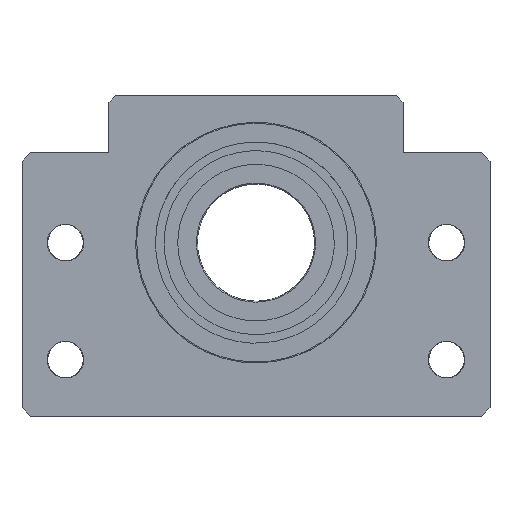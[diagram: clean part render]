
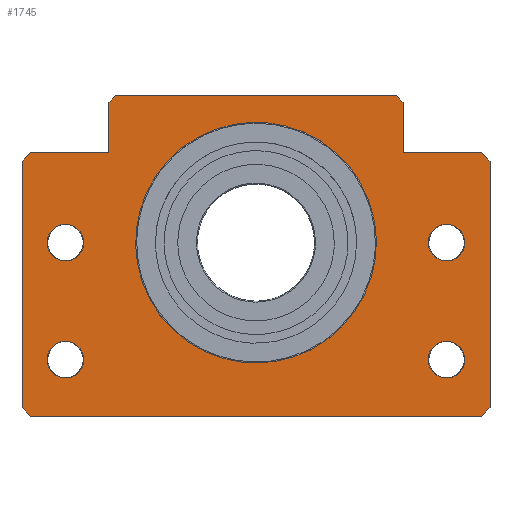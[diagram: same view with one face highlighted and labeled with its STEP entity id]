
A CAD part, front view. The second image highlights one B-rep face of the part: STEP entity #1745.
In plain terms, the highlighted free-form (B-spline) face has degree [1, 1] with [2, 2] control points.
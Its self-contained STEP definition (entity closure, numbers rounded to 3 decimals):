
#1022=CARTESIAN_POINT('',(70.,-49.36,0.));
#1023=VERTEX_POINT('',#1022);
#1024=CARTESIAN_POINT('',(67.36,-52.,0.));
#1025=VERTEX_POINT('',#1024);
#1026=CARTESIAN_POINT('',(70.,-49.36,0.));
#1027=CARTESIAN_POINT('',(67.36,-52.,0.));
#1028=B_SPLINE_CURVE_WITH_KNOTS('',1,(#1026,#1027),.POLYLINE_FORM.,.F.,.U.,(2,2),(0.,1.),.UNSPECIFIED.);
#1029=EDGE_CURVE('',#1023,#1025,#1028,.T.);
#1058=CARTESIAN_POINT('',(70.,24.36,0.));
#1059=VERTEX_POINT('',#1058);
#1060=CARTESIAN_POINT('',(70.,24.36,0.));
#1061=CARTESIAN_POINT('',(70.,-49.36,0.));
#1062=B_SPLINE_CURVE_WITH_KNOTS('',1,(#1060,#1061),.POLYLINE_FORM.,.F.,.U.,(2,2),(0.,1.),.UNSPECIFIED.);
#1063=EDGE_CURVE('',#1059,#1023,#1062,.T.);
#1086=CARTESIAN_POINT('',(-67.36,-52.,0.));
#1087=VERTEX_POINT('',#1086);
#1088=CARTESIAN_POINT('',(67.36,-52.,0.));
#1089=CARTESIAN_POINT('',(-67.36,-52.,0.));
#1090=B_SPLINE_CURVE_WITH_KNOTS('',1,(#1088,#1089),.POLYLINE_FORM.,.F.,.U.,(2,2),(0.,1.),.UNSPECIFIED.);
#1091=EDGE_CURVE('',#1025,#1087,#1090,.T.);
#1146=CARTESIAN_POINT('',(-70.,-49.36,0.));
#1147=VERTEX_POINT('',#1146);
#1148=CARTESIAN_POINT('',(-70.,24.36,0.));
#1149=VERTEX_POINT('',#1148);
#1150=CARTESIAN_POINT('',(-70.,-49.36,0.));
#1151=CARTESIAN_POINT('',(-70.,24.36,0.));
#1152=B_SPLINE_CURVE_WITH_KNOTS('',1,(#1150,#1151),.POLYLINE_FORM.,.F.,.U.,(2,2),(0.,1.),.UNSPECIFIED.);
#1153=EDGE_CURVE('',#1147,#1149,#1152,.T.);
#1182=CARTESIAN_POINT('',(-67.36,-52.,0.));
#1183=CARTESIAN_POINT('',(-70.,-49.36,0.));
#1184=B_SPLINE_CURVE_WITH_KNOTS('',1,(#1182,#1183),.POLYLINE_FORM.,.F.,.U.,(2,2),(0.,1.),.UNSPECIFIED.);
#1185=EDGE_CURVE('',#1087,#1147,#1184,.T.);
#1202=CARTESIAN_POINT('',(67.36,27.,0.));
#1203=VERTEX_POINT('',#1202);
#1204=CARTESIAN_POINT('',(67.36,27.,0.));
#1205=CARTESIAN_POINT('',(70.,24.36,0.));
#1206=B_SPLINE_CURVE_WITH_KNOTS('',1,(#1204,#1205),.POLYLINE_FORM.,.F.,.U.,(2,2),(0.,1.),.UNSPECIFIED.);
#1207=EDGE_CURVE('',#1203,#1059,#1206,.T.);
#1230=CARTESIAN_POINT('',(44.,27.,0.));
#1231=VERTEX_POINT('',#1230);
#1232=CARTESIAN_POINT('',(44.,27.,0.));
#1233=CARTESIAN_POINT('',(67.36,27.,0.));
#1234=B_SPLINE_CURVE_WITH_KNOTS('',1,(#1232,#1233),.POLYLINE_FORM.,.F.,.U.,(2,2),(0.,1.),.UNSPECIFIED.);
#1235=EDGE_CURVE('',#1231,#1203,#1234,.T.);
#1274=CARTESIAN_POINT('',(44.,42.,0.));
#1275=VERTEX_POINT('',#1274);
#1276=CARTESIAN_POINT('',(44.,42.,0.));
#1277=CARTESIAN_POINT('',(44.,27.,0.));
#1278=B_SPLINE_CURVE_WITH_KNOTS('',1,(#1276,#1277),.POLYLINE_FORM.,.F.,.U.,(2,2),(0.,1.),.UNSPECIFIED.);
#1279=EDGE_CURVE('',#1275,#1231,#1278,.T.);
#1302=CARTESIAN_POINT('',(42.,44.,0.));
#1303=VERTEX_POINT('',#1302);
#1304=CARTESIAN_POINT('',(42.,44.,0.));
#1305=CARTESIAN_POINT('',(44.,42.,0.));
#1306=B_SPLINE_CURVE_WITH_KNOTS('',1,(#1304,#1305),.POLYLINE_FORM.,.F.,.U.,(2,2),(0.,1.),.UNSPECIFIED.);
#1307=EDGE_CURVE('',#1303,#1275,#1306,.T.);
#1330=CARTESIAN_POINT('',(-42.,44.,0.));
#1331=VERTEX_POINT('',#1330);
#1332=CARTESIAN_POINT('',(-42.,44.,0.));
#1333=CARTESIAN_POINT('',(42.,44.,0.));
#1334=B_SPLINE_CURVE_WITH_KNOTS('',1,(#1332,#1333),.POLYLINE_FORM.,.F.,.U.,(2,2),(0.,1.),.UNSPECIFIED.);
#1335=EDGE_CURVE('',#1331,#1303,#1334,.T.);
#1358=CARTESIAN_POINT('',(-44.,42.,0.));
#1359=VERTEX_POINT('',#1358);
#1360=CARTESIAN_POINT('',(-44.,42.,0.));
#1361=CARTESIAN_POINT('',(-42.,44.,0.));
#1362=B_SPLINE_CURVE_WITH_KNOTS('',1,(#1360,#1361),.POLYLINE_FORM.,.F.,.U.,(2,2),(0.,1.),.UNSPECIFIED.);
#1363=EDGE_CURVE('',#1359,#1331,#1362,.T.);
#1386=CARTESIAN_POINT('',(-44.,27.,0.));
#1387=VERTEX_POINT('',#1386);
#1388=CARTESIAN_POINT('',(-44.,27.,0.));
#1389=CARTESIAN_POINT('',(-44.,42.,0.));
#1390=B_SPLINE_CURVE_WITH_KNOTS('',1,(#1388,#1389),.POLYLINE_FORM.,.F.,.U.,(2,2),(0.,1.),.UNSPECIFIED.);
#1391=EDGE_CURVE('',#1387,#1359,#1390,.T.);
#1414=CARTESIAN_POINT('',(-67.36,27.,0.));
#1415=VERTEX_POINT('',#1414);
#1416=CARTESIAN_POINT('',(-67.36,27.,0.));
#1417=CARTESIAN_POINT('',(-44.,27.,0.));
#1418=B_SPLINE_CURVE_WITH_KNOTS('',1,(#1416,#1417),.POLYLINE_FORM.,.F.,.U.,(2,2),(0.,1.),.UNSPECIFIED.);
#1419=EDGE_CURVE('',#1415,#1387,#1418,.T.);
#1458=CARTESIAN_POINT('',(-70.,24.36,0.));
#1459=CARTESIAN_POINT('',(-67.36,27.,0.));
#1460=B_SPLINE_CURVE_WITH_KNOTS('',1,(#1458,#1459),.POLYLINE_FORM.,.F.,.U.,(2,2),(0.,1.),.UNSPECIFIED.);
#1461=EDGE_CURVE('',#1149,#1415,#1460,.T.);
#1642=CARTESIAN_POINT('',(36.,0.,0.));
#1643=VERTEX_POINT('',#1642);
#1649=CARTESIAN_POINT('',(36.,0.,0.));
#1650=CARTESIAN_POINT('',(36.,-36.,0.));
#1651=CARTESIAN_POINT('',(0.,-36.,0.));
#1652=CARTESIAN_POINT('',(-36.,-36.,0.));
#1653=CARTESIAN_POINT('',(-36.,0.,0.));
#1654=CARTESIAN_POINT('',(-36.,36.,0.));
#1655=CARTESIAN_POINT('',(0.,36.,0.));
#1656=CARTESIAN_POINT('',(36.,36.,0.));
#1657=CARTESIAN_POINT('',(36.,0.,0.));
#1658=(BOUNDED_CURVE()B_SPLINE_CURVE(2,(#1649,#1650,#1651,#1652,#1653,#1654,#1655,#1656,#1657),.UNSPECIFIED.,.T.,.U.)B_SPLINE_CURVE_WITH_KNOTS((3,2,2,2,3),(0.,0.25,0.5,0.75,1.),.UNSPECIFIED.)CURVE()GEOMETRIC_REPRESENTATION_ITEM()RATIONAL_B_SPLINE_CURVE((1.,0.707,1.,0.707,1.,0.707,1.,0.707,1.))REPRESENTATION_ITEM(''));
#1659=EDGE_CURVE('',#1643,#1643,#1658,.T.);
#1665=CARTESIAN_POINT('',(-173.753,-173.753,0.));
#1666=CARTESIAN_POINT('',(-173.753,173.753,0.));
#1667=CARTESIAN_POINT('',(173.753,-173.753,0.));
#1668=CARTESIAN_POINT('',(173.753,173.753,0.));
#1669=B_SPLINE_SURFACE_WITH_KNOTS('',1,1,((#1665,#1666),(#1667,#1668)),.PLANE_SURF.,.F.,.F.,.U.,(2,2),(2,2),(0.,1.),(0.,1.),.UNSPECIFIED.);
#1670=ORIENTED_EDGE('',*,*,#1153,.F.);
#1671=ORIENTED_EDGE('',*,*,#1185,.F.);
#1672=ORIENTED_EDGE('',*,*,#1091,.F.);
#1673=ORIENTED_EDGE('',*,*,#1029,.F.);
#1674=ORIENTED_EDGE('',*,*,#1063,.F.);
#1675=ORIENTED_EDGE('',*,*,#1207,.F.);
#1676=ORIENTED_EDGE('',*,*,#1235,.F.);
#1677=ORIENTED_EDGE('',*,*,#1279,.F.);
#1678=ORIENTED_EDGE('',*,*,#1307,.F.);
#1679=ORIENTED_EDGE('',*,*,#1335,.F.);
#1680=ORIENTED_EDGE('',*,*,#1363,.F.);
#1681=ORIENTED_EDGE('',*,*,#1391,.F.);
#1682=ORIENTED_EDGE('',*,*,#1419,.F.);
#1683=ORIENTED_EDGE('',*,*,#1461,.F.);
#1684=EDGE_LOOP('',(#1670,#1671,#1672,#1673,#1674,#1675,#1676,#1677,#1678,#1679,#1680,#1681,#1682,#1683));
#1685=FACE_OUTER_BOUND('',#1684,.T.);
#1686=ORIENTED_EDGE('',*,*,#1659,.T.);
#1687=EDGE_LOOP('',(#1686));
#1688=FACE_BOUND('',#1687,.T.);
#1689=CARTESIAN_POINT('',(62.5,0.,0.));
#1690=VERTEX_POINT('',#1689);
#1691=CARTESIAN_POINT('',(62.5,0.,0.));
#1692=CARTESIAN_POINT('',(62.5,9.526,0.));
#1693=CARTESIAN_POINT('',(54.25,4.763,0.));
#1694=CARTESIAN_POINT('',(46.,0.,0.));
#1695=CARTESIAN_POINT('',(54.25,-4.763,0.));
#1696=CARTESIAN_POINT('',(62.5,-9.526,0.));
#1697=CARTESIAN_POINT('',(62.5,0.,0.));
#1698=(BOUNDED_CURVE()B_SPLINE_CURVE(2,(#1691,#1692,#1693,#1694,#1695,#1696,#1697),.CIRCULAR_ARC.,.T.,.U.)B_SPLINE_CURVE_WITH_KNOTS((3,2,2,3),(0.,0.333,0.667,1.),.UNSPECIFIED.)CURVE()GEOMETRIC_REPRESENTATION_ITEM()RATIONAL_B_SPLINE_CURVE((1.,0.5,1.,0.5,1.,0.5,1.))REPRESENTATION_ITEM(''));
#1699=EDGE_CURVE('',#1690,#1690,#1698,.T.);
#1700=ORIENTED_EDGE('',*,*,#1699,.F.);
#1701=EDGE_LOOP('',(#1700));
#1702=FACE_BOUND('',#1701,.T.);
#1703=CARTESIAN_POINT('',(62.5,-35.,0.));
#1704=VERTEX_POINT('',#1703);
#1705=CARTESIAN_POINT('',(62.5,-35.,0.));
#1706=CARTESIAN_POINT('',(62.5,-25.474,0.));
#1707=CARTESIAN_POINT('',(54.25,-30.237,0.));
#1708=CARTESIAN_POINT('',(46.,-35.,0.));
#1709=CARTESIAN_POINT('',(54.25,-39.763,0.));
#1710=CARTESIAN_POINT('',(62.5,-44.526,0.));
#1711=CARTESIAN_POINT('',(62.5,-35.,0.));
#1712=(BOUNDED_CURVE()B_SPLINE_CURVE(2,(#1705,#1706,#1707,#1708,#1709,#1710,#1711),.CIRCULAR_ARC.,.T.,.U.)B_SPLINE_CURVE_WITH_KNOTS((3,2,2,3),(0.,0.333,0.667,1.),.UNSPECIFIED.)CURVE()GEOMETRIC_REPRESENTATION_ITEM()RATIONAL_B_SPLINE_CURVE((1.,0.5,1.,0.5,1.,0.5,1.))REPRESENTATION_ITEM(''));
#1713=EDGE_CURVE('',#1704,#1704,#1712,.T.);
#1714=ORIENTED_EDGE('',*,*,#1713,.F.);
#1715=EDGE_LOOP('',(#1714));
#1716=FACE_BOUND('',#1715,.T.);
#1717=CARTESIAN_POINT('',(-51.5,0.,0.));
#1718=VERTEX_POINT('',#1717);
#1719=CARTESIAN_POINT('',(-51.5,0.,0.));
#1720=CARTESIAN_POINT('',(-51.5,9.526,0.));
#1721=CARTESIAN_POINT('',(-59.75,4.763,0.));
#1722=CARTESIAN_POINT('',(-68.,0.,0.));
#1723=CARTESIAN_POINT('',(-59.75,-4.763,0.));
#1724=CARTESIAN_POINT('',(-51.5,-9.526,0.));
#1725=CARTESIAN_POINT('',(-51.5,0.,0.));
#1726=(BOUNDED_CURVE()B_SPLINE_CURVE(2,(#1719,#1720,#1721,#1722,#1723,#1724,#1725),.CIRCULAR_ARC.,.T.,.U.)B_SPLINE_CURVE_WITH_KNOTS((3,2,2,3),(0.,0.333,0.667,1.),.UNSPECIFIED.)CURVE()GEOMETRIC_REPRESENTATION_ITEM()RATIONAL_B_SPLINE_CURVE((1.,0.5,1.,0.5,1.,0.5,1.))REPRESENTATION_ITEM(''));
#1727=EDGE_CURVE('',#1718,#1718,#1726,.T.);
#1728=ORIENTED_EDGE('',*,*,#1727,.F.);
#1729=EDGE_LOOP('',(#1728));
#1730=FACE_BOUND('',#1729,.T.);
#1731=CARTESIAN_POINT('',(-51.5,-35.,0.));
#1732=VERTEX_POINT('',#1731);
#1733=CARTESIAN_POINT('',(-51.5,-35.,0.));
#1734=CARTESIAN_POINT('',(-51.5,-25.474,0.));
#1735=CARTESIAN_POINT('',(-59.75,-30.237,0.));
#1736=CARTESIAN_POINT('',(-68.,-35.,0.));
#1737=CARTESIAN_POINT('',(-59.75,-39.763,0.));
#1738=CARTESIAN_POINT('',(-51.5,-44.526,0.));
#1739=CARTESIAN_POINT('',(-51.5,-35.,0.));
#1740=(BOUNDED_CURVE()B_SPLINE_CURVE(2,(#1733,#1734,#1735,#1736,#1737,#1738,#1739),.CIRCULAR_ARC.,.T.,.U.)B_SPLINE_CURVE_WITH_KNOTS((3,2,2,3),(0.,0.333,0.667,1.),.UNSPECIFIED.)CURVE()GEOMETRIC_REPRESENTATION_ITEM()RATIONAL_B_SPLINE_CURVE((1.,0.5,1.,0.5,1.,0.5,1.))REPRESENTATION_ITEM(''));
#1741=EDGE_CURVE('',#1732,#1732,#1740,.T.);
#1742=ORIENTED_EDGE('',*,*,#1741,.F.);
#1743=EDGE_LOOP('',(#1742));
#1744=FACE_BOUND('',#1743,.T.);
#1745=ADVANCED_FACE('',(#1685,#1688,#1702,#1716,#1730,#1744),#1669,.T.);
